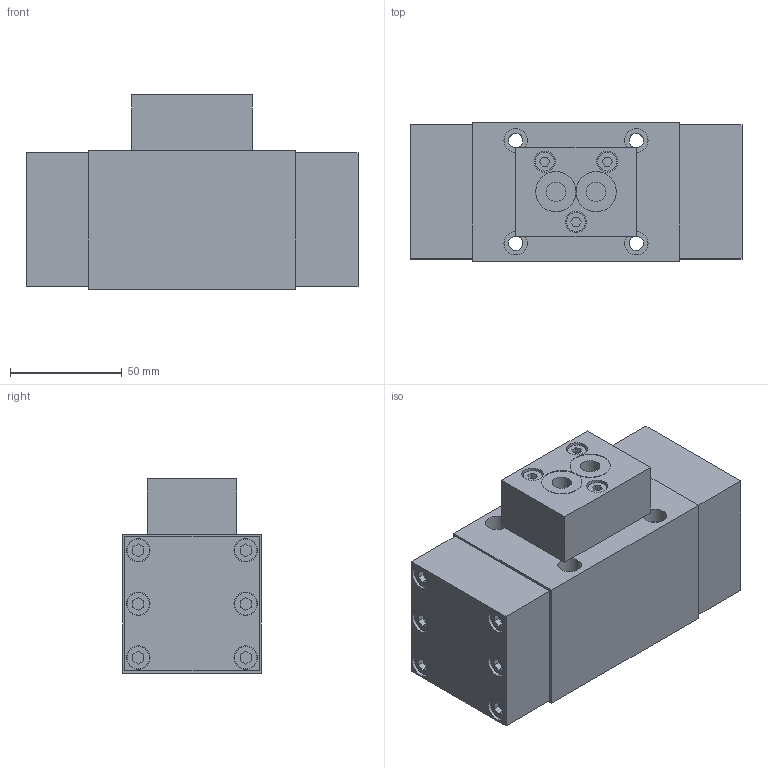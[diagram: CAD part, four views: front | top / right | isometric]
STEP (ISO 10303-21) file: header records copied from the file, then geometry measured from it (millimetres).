
FILE_DESCRIPTION(('Bauteilbeschreibung','HiCAD-Model','HiCAD-STEP-TRANSLATION','Bauteilbeschreibung'),'2;1');
FILE_NAME('D:/AP4_10.STP','2006-08-10T10:53:20+00:00',('Konstrukteur'),('Konstrukteur Firma GmbH'),'HiCAD3 V1210 STEP 1.6.2005','HiCAD3 V1210','confidential');
FILE_SCHEMA(('AUTOMOTIVE_DESIGN { 1 2 10303 214 0 1 1 1 }'));
Length unit declared in the file: millimetre
Products named in the file (28): AP4_10; AP4010; A8D4BA43; A22CCCCD; A22CCCCD0; IN6KTM6; IN6KTM60; IN6KTM61; IN6KTM62; IN6KTM63; IN6KTM64; IN6KTM65; A22CCCCD1; A22CCCCD2; IN6KTM66; IN6KTM67; IN6KTM68; IN6KTM69; IN6KTM610; IN6KTM611; IN6KTM612; A205B8BF; E7114C37; E7114C370; IN6KTM5; IN6KTM50; IN6KTM51; IN6KTM52
Assembly tree (27 placements, depth 6):
  AP4_10
    AP4010
      A8D4BA43
        A22CCCCD
        A22CCCCD0
          IN6KTM6
            IN6KTM60
            IN6KTM61
            IN6KTM62
            IN6KTM63
            IN6KTM64
            IN6KTM65
        A22CCCCD1
        A22CCCCD2
          IN6KTM66
            IN6KTM67
            IN6KTM68
            IN6KTM69
            IN6KTM610
            IN6KTM611
            IN6KTM612
        A205B8BF
        E7114C37
        E7114C370
          IN6KTM5
            IN6KTM50
            IN6KTM51
            IN6KTM52
Bounding box: 148.6 x 62 x 87 mm (x, y, z)
Volume: 584111.6 mm3; surface area: 89301 mm2
Topology: 19 solids, 19 shells, 265 faces, 568 edges, 391 vertices
Faces by surface type: plane 195, cylinder 70
Full cylindrical faces by diameter (mm): 5.5 x3, 6 x8, 6.5 x16, 8.5 x3, 8.7 x2, 9.5 x3, 10 x12, 10.5 x16, 16.9 x5, 18 x2
Entity records: 11729 total; most frequent: DIRECTION 1236, CARTESIAN_POINT 1128, ORIENTED_EDGE 916, COLOUR_RGB 742, PRESENTATION_STYLE_ASSIGNMENT 742, OVER_RIDING_STYLED_ITEM 723, AXIS2_PLACEMENT_3D 459, CURVE_STYLE 458
